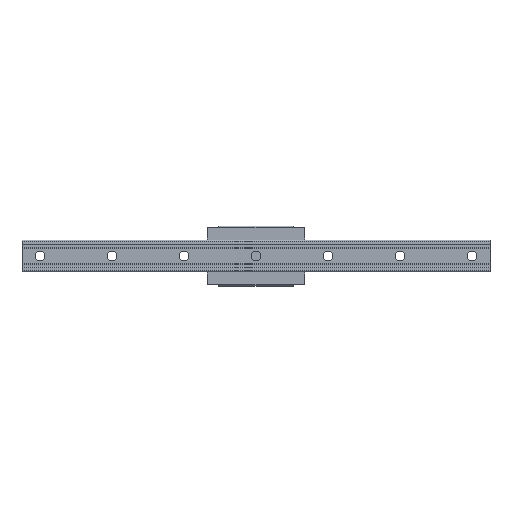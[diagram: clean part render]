
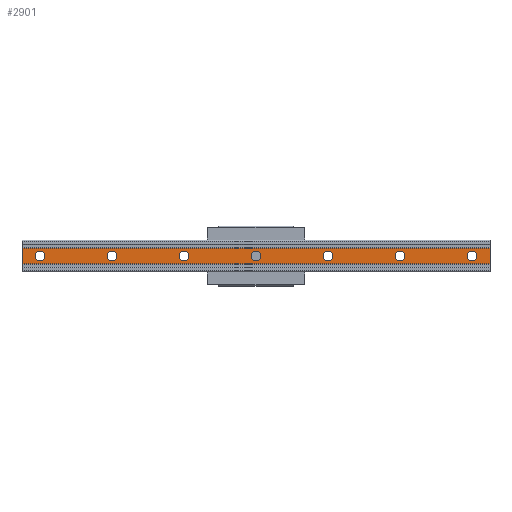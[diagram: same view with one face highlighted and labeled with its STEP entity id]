
A CAD part, front view. The second image highlights one B-rep face of the part: STEP entity #2901.
In plain terms, the highlighted planar face has unit normal (0, -1, 0).
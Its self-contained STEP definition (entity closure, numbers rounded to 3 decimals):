
#103=CIRCLE('',#3127,8.);
#104=CIRCLE('',#3128,8.);
#105=CIRCLE('',#3129,8.);
#106=CIRCLE('',#3130,8.);
#107=CIRCLE('',#3131,8.);
#108=CIRCLE('',#3132,8.);
#109=CIRCLE('',#3133,8.);
#335=ORIENTED_EDGE('',*,*,#1129,.F.);
#336=ORIENTED_EDGE('',*,*,#1130,.F.);
#337=ORIENTED_EDGE('',*,*,#1131,.F.);
#338=ORIENTED_EDGE('',*,*,#1132,.F.);
#339=ORIENTED_EDGE('',*,*,#1133,.F.);
#340=ORIENTED_EDGE('',*,*,#1134,.F.);
#341=ORIENTED_EDGE('',*,*,#1135,.F.);
#342=ORIENTED_EDGE('',*,*,#1136,.T.);
#343=ORIENTED_EDGE('',*,*,#1137,.F.);
#344=ORIENTED_EDGE('',*,*,#1138,.F.);
#345=ORIENTED_EDGE('',*,*,#1127,.T.);
#1127=EDGE_CURVE('',#1519,#1518,#1818,.T.);
#1129=EDGE_CURVE('',#1520,#1520,#103,.T.);
#1130=EDGE_CURVE('',#1521,#1521,#104,.T.);
#1131=EDGE_CURVE('',#1522,#1522,#105,.T.);
#1132=EDGE_CURVE('',#1523,#1523,#106,.T.);
#1133=EDGE_CURVE('',#1524,#1524,#107,.T.);
#1134=EDGE_CURVE('',#1525,#1525,#108,.T.);
#1135=EDGE_CURVE('',#1526,#1526,#109,.T.);
#1136=EDGE_CURVE('',#1518,#1527,#1820,.T.);
#1137=EDGE_CURVE('',#1528,#1527,#1821,.T.);
#1138=EDGE_CURVE('',#1519,#1528,#1822,.T.);
#1518=VERTEX_POINT('',#4378);
#1519=VERTEX_POINT('',#4380);
#1520=VERTEX_POINT('',#4384);
#1521=VERTEX_POINT('',#4386);
#1522=VERTEX_POINT('',#4388);
#1523=VERTEX_POINT('',#4390);
#1524=VERTEX_POINT('',#4392);
#1525=VERTEX_POINT('',#4394);
#1526=VERTEX_POINT('',#4396);
#1527=VERTEX_POINT('',#4398);
#1528=VERTEX_POINT('',#4400);
#1818=LINE('',#4379,#2060);
#1820=LINE('',#4397,#2062);
#1821=LINE('',#4399,#2063);
#1822=LINE('',#4401,#2064);
#2060=VECTOR('',#3496,1000.);
#2062=VECTOR('',#3514,1000.);
#2063=VECTOR('',#3515,1000.);
#2064=VECTOR('',#3516,1000.);
#2285=EDGE_LOOP('',(#335));
#2286=EDGE_LOOP('',(#336));
#2287=EDGE_LOOP('',(#337));
#2288=EDGE_LOOP('',(#338));
#2289=EDGE_LOOP('',(#339));
#2290=EDGE_LOOP('',(#340));
#2291=EDGE_LOOP('',(#341));
#2292=EDGE_LOOP('',(#342,#343,#344,#345));
#2540=FACE_BOUND('',#2285,.T.);
#2541=FACE_BOUND('',#2286,.T.);
#2542=FACE_BOUND('',#2287,.T.);
#2543=FACE_BOUND('',#2288,.T.);
#2544=FACE_BOUND('',#2289,.T.);
#2545=FACE_BOUND('',#2290,.T.);
#2546=FACE_BOUND('',#2291,.T.);
#2547=FACE_BOUND('',#2292,.T.);
#2797=PLANE('',#3126);
#2901=ADVANCED_FACE('',(#2540,#2541,#2542,#2543,#2544,#2545,#2546,#2547),
#2797,.F.);
#3126=AXIS2_PLACEMENT_3D('',#4382,#3498,#3499);
#3127=AXIS2_PLACEMENT_3D('',#4383,#3500,#3501);
#3128=AXIS2_PLACEMENT_3D('',#4385,#3502,#3503);
#3129=AXIS2_PLACEMENT_3D('',#4387,#3504,#3505);
#3130=AXIS2_PLACEMENT_3D('',#4389,#3506,#3507);
#3131=AXIS2_PLACEMENT_3D('',#4391,#3508,#3509);
#3132=AXIS2_PLACEMENT_3D('',#4393,#3510,#3511);
#3133=AXIS2_PLACEMENT_3D('',#4395,#3512,#3513);
#3496=DIRECTION('',(-1.,0.,0.));
#3498=DIRECTION('',(0.,1.,0.));
#3499=DIRECTION('',(0.,0.,1.));
#3500=DIRECTION('',(0.,-1.,0.));
#3501=DIRECTION('',(0.,0.,-1.));
#3502=DIRECTION('',(0.,-1.,0.));
#3503=DIRECTION('',(0.,0.,-1.));
#3504=DIRECTION('',(0.,-1.,0.));
#3505=DIRECTION('',(0.,0.,-1.));
#3506=DIRECTION('',(0.,-1.,0.));
#3507=DIRECTION('',(0.,0.,-1.));
#3508=DIRECTION('',(0.,-1.,0.));
#3509=DIRECTION('',(0.,0.,-1.));
#3510=DIRECTION('',(0.,-1.,0.));
#3511=DIRECTION('',(0.,0.,-1.));
#3512=DIRECTION('',(0.,-1.,0.));
#3513=DIRECTION('',(0.,0.,-1.));
#3514=DIRECTION('',(0.,0.,-1.));
#3515=DIRECTION('',(-1.,0.,0.));
#3516=DIRECTION('',(0.,0.,-1.));
#4378=CARTESIAN_POINT('',(-30.,0.,13.));
#4379=CARTESIAN_POINT('',(750.,0.,13.));
#4380=CARTESIAN_POINT('',(750.,0.,13.));
#4382=CARTESIAN_POINT('',(750.,0.,13.));
#4383=CARTESIAN_POINT('',(120.,0.,0.));
#4384=CARTESIAN_POINT('',(120.,0.,-8.));
#4385=CARTESIAN_POINT('',(240.,0.,0.));
#4386=CARTESIAN_POINT('',(240.,0.,-8.));
#4387=CARTESIAN_POINT('',(360.,0.,0.));
#4388=CARTESIAN_POINT('',(360.,0.,-8.));
#4389=CARTESIAN_POINT('',(480.,0.,0.));
#4390=CARTESIAN_POINT('',(480.,0.,-8.));
#4391=CARTESIAN_POINT('',(600.,0.,0.));
#4392=CARTESIAN_POINT('',(600.,0.,-8.));
#4393=CARTESIAN_POINT('',(720.,0.,0.));
#4394=CARTESIAN_POINT('',(720.,0.,-8.));
#4395=CARTESIAN_POINT('',(0.,0.,0.));
#4396=CARTESIAN_POINT('',(0.,0.,-8.));
#4397=CARTESIAN_POINT('',(-30.,0.,13.));
#4398=CARTESIAN_POINT('',(-30.,0.,-13.));
#4399=CARTESIAN_POINT('',(750.,0.,-13.));
#4400=CARTESIAN_POINT('',(750.,0.,-13.));
#4401=CARTESIAN_POINT('',(750.,0.,13.));
